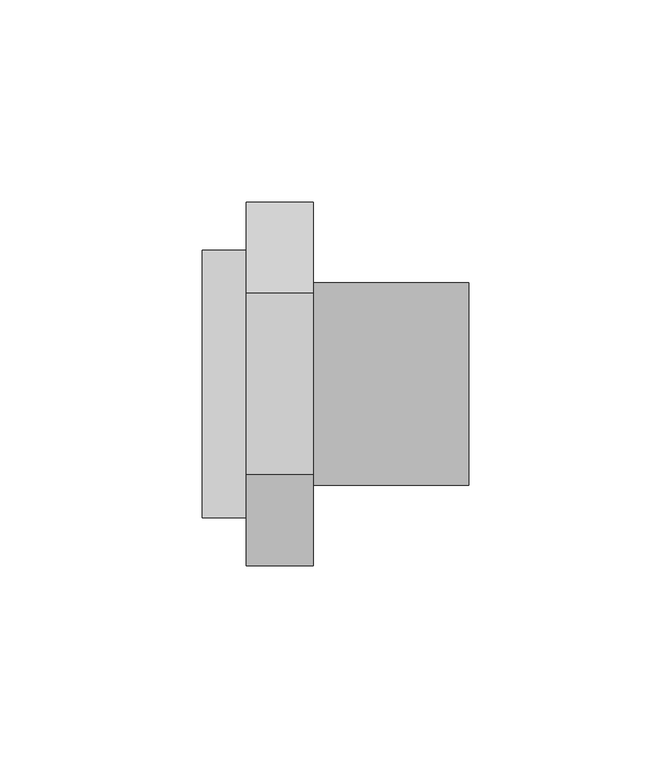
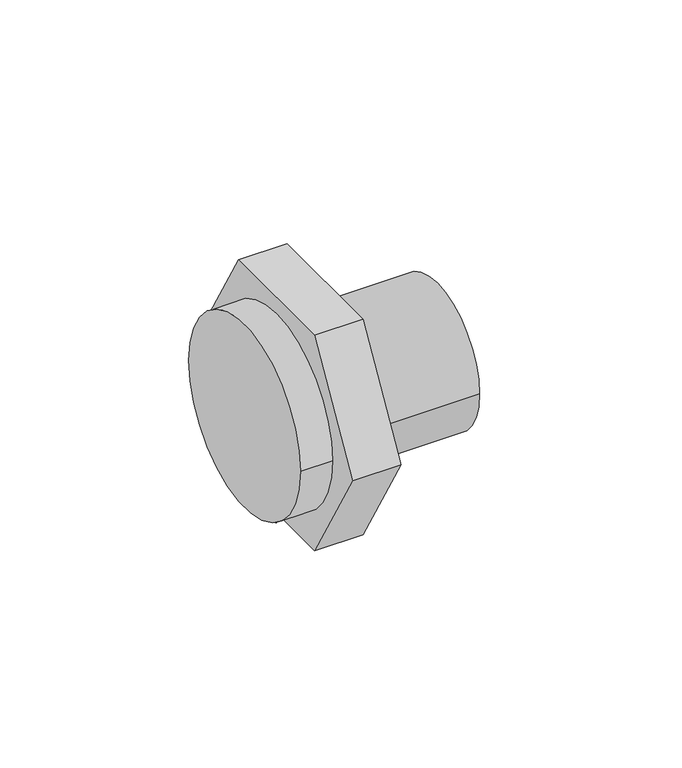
"""IFC4 building model written with IfcOpenShell, lengths in millimetres: pipe fitting geometry, 01101008 : Manguitos multiplos H/M/H."""

import ifcopenshell
import ifcopenshell.guid

model = None  # the IFC model being written
_history = None  # IfcOwnerHistory: only IFC2X3 demands one
_inside = {}  # id of a spatial element -> (the spatial element, [elements in it])
_under = {}  # id of a project, library or spatial element -> (it, [spatial elements below it])
_declared = {}  # id of a project -> (the project, [libraries it declares])
_typed = {}  # id of a type object -> (the type object, [elements of that type])
_made_of = {}  # id of a material, layer set ... -> (it, [elements and type objects made of it])


def new_model(schema):
    """Start an empty IFC model of exactly this schema.

    Asked for "IFC4X3", IfcOpenShell would pick the latest addendum, in which some entities
    have other attributes; the version numbers below select the first issue.
    IFC2X3 requires an IfcOwnerHistory on every rooted entity: one is made here for all.
    """
    global model, _history
    if schema == "IFC4X3":
        model = ifcopenshell.file(schema_version=(4, 3, 0, 0))
    else:
        model = ifcopenshell.file(schema=schema)
    _inside.clear()
    _under.clear()
    _declared.clear()
    _typed.clear()
    _made_of.clear()
    _history = None
    if model.schema == "IFC2X3":
        org = make("IfcOrganization", Name="unknown")
        user = make(
            "IfcPersonAndOrganization",
            ThePerson=make("IfcPerson", FamilyName="unknown"),
            TheOrganization=org,
        )
        app = make(
            "IfcApplication",
            ApplicationDeveloper=org,
            Version="unknown",
            ApplicationFullName="unknown",
            ApplicationIdentifier="unknown",
        )
        _history = make(
            "IfcOwnerHistory",
            OwningUser=user,
            OwningApplication=app,
            ChangeAction="ADDED",
            CreationDate=0,
        )
    return model


def make(cls, **values):
    """One entity of the class cls with the attributes given. An attribute that is None is left unset."""
    return model.create_entity(
        cls, **{name: value for name, value in values.items() if value is not None}
    )


def rooted(cls, **values):
    """An entity with a GlobalId (a new one), such as an element, a storey or a relation."""
    return make(cls, GlobalId=ifcopenshell.guid.new(), OwnerHistory=_history, **values)


def si_unit(unit_type, name, prefix=None):
    """IfcSIUnit, for example si_unit("LENGTHUNIT", "METRE", prefix="MILLI")."""
    return make("IfcSIUnit", UnitType=unit_type, Prefix=prefix, Name=name)


def assignment(units):
    """IfcUnitAssignment: the units of a project."""
    return None if units is None else make("IfcUnitAssignment", Units=units)


def point(xyz):
    """IfcCartesianPoint."""
    return None if xyz is None else make("IfcCartesianPoint", Coordinates=xyz)


def direction(xyz):
    """IfcDirection."""
    return None if xyz is None else make("IfcDirection", DirectionRatios=xyz)


def frame(location, z_axis=None, x_axis=None):
    """IfcAxis2Placement3D, a coordinate frame: its origin and axes. An axis left out is left unset."""
    return make(
        "IfcAxis2Placement3D",
        Location=point(location),
        Axis=direction(z_axis),
        RefDirection=direction(x_axis),
    )


def frame_2d(location, x_axis=None):
    """IfcAxis2Placement2D, a coordinate frame in the plane: its origin and x axis."""
    return make(
        "IfcAxis2Placement2D", Location=point(location), RefDirection=direction(x_axis)
    )


def origin():
    """The frame at (0, 0, 0) with its axes left unset."""
    return frame((0.0, 0.0, 0.0))


def origin_2d():
    """The frame at (0, 0) in the plane with its x axis left unset."""
    return frame_2d((0.0, 0.0))


def place(relative_to, where):
    """IfcLocalPlacement: puts the frame where relative to a parent placement (None: the world)."""
    return make(
        "IfcLocalPlacement", PlacementRelTo=relative_to, RelativePlacement=where
    )


def context(
    kind, dimensions, precision=None, world=None, true_north=None, identifier=None
):
    """IfcGeometricRepresentationContext, for example the 3D "Model" context."""
    return make(
        "IfcGeometricRepresentationContext",
        ContextIdentifier=identifier,
        ContextType=kind,
        CoordinateSpaceDimension=dimensions,
        Precision=precision,
        WorldCoordinateSystem=world,
        TrueNorth=true_north,
    )


def project(units=None, contexts=None):
    """IfcProject with its units and contexts."""
    return rooted(
        "IfcProject",
        Name="project",
        RepresentationContexts=contexts,
        UnitsInContext=assignment(units),
    )


def spatial(cls, under=None, at=None, **own):
    """A site, building, storey or space (cls), placed at a placement, below another one or the project."""
    s = rooted(cls, ObjectPlacement=at, **own)
    if under is not None:
        _under.setdefault(under.id(), (under, []))[1].append(s)
    return s


def polyline(points):
    """IfcPolyline through the points."""
    return make("IfcPolyline", Points=[point(p) for p in points])


def circle_curve(where, radius):
    """IfcCircle in the frame where."""
    return make("IfcCircle", Position=where, Radius=radius)


def trimmed(basis, trim1, trim2, sense, master):
    """IfcTrimmedCurve: the piece of a basis curve between two trims."""
    return make(
        "IfcTrimmedCurve",
        BasisCurve=basis,
        Trim1=trim1,
        Trim2=trim2,
        SenseAgreement=sense,
        MasterRepresentation=master,
    )


def segment(curve, same_sense, transition):
    """IfcCompositeCurveSegment."""
    return make(
        "IfcCompositeCurveSegment",
        Transition=transition,
        SameSense=same_sense,
        ParentCurve=curve,
    )


def composite_curve(segments, self_intersect=None):
    """IfcCompositeCurve: segments joined end to end."""
    return make("IfcCompositeCurve", Segments=segments, SelfIntersect=self_intersect)


def outline(outer, holes=None, kind="AREA"):
    """IfcArbitraryClosedProfileDef: a profile drawn as a closed curve; with holes, ...WithVoids."""
    if holes is None:
        return make("IfcArbitraryClosedProfileDef", ProfileType=kind, OuterCurve=outer)
    return make(
        "IfcArbitraryProfileDefWithVoids",
        ProfileType=kind,
        OuterCurve=outer,
        InnerCurves=holes,
    )


def extrude(swept, where, along, depth):
    """IfcExtrudedAreaSolid: the profile swept, set in the frame where, extruded along a direction by depth."""
    return make(
        "IfcExtrudedAreaSolid",
        SweptArea=swept,
        Position=where,
        ExtrudedDirection=direction(along),
        Depth=depth,
    )


def shape(context_of_items, identifier, shape_type, items):
    """IfcShapeRepresentation: the items that make up one representation, for example the "Body"."""
    return make(
        "IfcShapeRepresentation",
        ContextOfItems=context_of_items,
        RepresentationIdentifier=identifier,
        RepresentationType=shape_type,
        Items=items,
    )


def source(mapping_origin, context_of_items, identifier, shape_type, items):
    """IfcRepresentationMap: a shape defined once, which mapped items show again and again."""
    return make(
        "IfcRepresentationMap",
        MappingOrigin=mapping_origin,
        MappedRepresentation=shape(context_of_items, identifier, shape_type, items),
    )


def transform(
    local_origin,
    x_axis=None,
    y_axis=None,
    z_axis=None,
    scale=None,
    scale2=None,
    scale3=None,
    uniform=True,
):
    """IfcCartesianTransformationOperator3D, or its non-uniform kind. x_axis, y_axis, z_axis: its Axis1, 2, 3."""
    if uniform:
        return make(
            "IfcCartesianTransformationOperator3D",
            Axis1=direction(x_axis),
            Axis2=direction(y_axis),
            LocalOrigin=point(local_origin),
            Scale=scale,
            Axis3=direction(z_axis),
        )
    return make(
        "IfcCartesianTransformationOperator3DnonUniform",
        Axis1=direction(x_axis),
        Axis2=direction(y_axis),
        LocalOrigin=point(local_origin),
        Scale=scale,
        Axis3=direction(z_axis),
        Scale2=scale2,
        Scale3=scale3,
    )


def mapped(mapping_source, mapping_target):
    """IfcMappedItem: shows the shape of a source again, moved by a transform."""
    return make(
        "IfcMappedItem", MappingSource=mapping_source, MappingTarget=mapping_target
    )


def made_of(thing, what):
    """Note that an element or type object is made of a material, layer set ...; save() writes the relation."""
    if what is not None:
        _made_of.setdefault(what.id(), (what, []))[1].append(thing)
    return thing


def element(
    cls,
    number,
    at=None,
    inside=None,
    cuts=None,
    type_object=None,
    material=None,
    context=None,
    identifier="Body",
    shape_type=None,
    held_by="IfcProductDefinitionShape",
    body=None,
    shapes=None,
    **own,
):
    """One element of the class cls, such as IfcWall. Its Tag is "e" and its number.

    at: its placement. inside: the storey or other place that contains it. cuts: it is an
    opening in that element (IfcRelVoidsElement). A single representation is given by context,
    identifier, shape_type and body (its items); several are given by shapes. held_by: the class
    of the entity that holds the representations. save() writes the other relations.
    """
    e = rooted(cls, Tag="e%d" % number, ObjectPlacement=at, **own)
    if body is not None:
        shapes = [shape(context, identifier, shape_type, body)]
    if shapes is not None:
        e.Representation = make(held_by, Representations=shapes)
    if inside is not None:
        _inside.setdefault(inside.id(), (inside, []))[1].append(e)
    if cuts is not None:
        rooted(
            "IfcRelVoidsElement", RelatingBuildingElement=cuts, RelatedOpeningElement=e
        )
    if type_object is not None:
        _typed.setdefault(type_object.id(), (type_object, []))[1].append(e)
    return made_of(e, material)


def aggregate(whole, parts):
    """IfcRelAggregates: a whole, such as a stair, and the parts it consists of."""
    return rooted("IfcRelAggregates", RelatingObject=whole, RelatedObjects=parts)


def save(model, path):
    """Write the relations noted so far, then the file.

    IfcRelAggregates (storeys below a building ...), IfcRelContainedInSpatialStructure (elements
    in a storey), IfcRelDefinesByType, IfcRelAssociatesMaterial and IfcRelDeclares: one each for
    every whole, place, type object, material and project.
    """
    for whole, parts in _under.values():
        aggregate(whole, parts)
    for where, things in _inside.values():
        rooted(
            "IfcRelContainedInSpatialStructure",
            RelatedElements=things,
            RelatingStructure=where,
        )
    for kind, things in _typed.values():
        rooted("IfcRelDefinesByType", RelatedObjects=things, RelatingType=kind)
    for what, things in _made_of.values():
        rooted("IfcRelAssociatesMaterial", RelatedObjects=things, RelatingMaterial=what)
    for by, libraries in _declared.values():
        rooted("IfcRelDeclares", RelatingContext=by, RelatedDefinitions=libraries)
    model.write(path)


def pipe_fitting_06e32a68(model_context):
    return source(origin(), model_context, "Body", "SweptSolid", [
        extrude(outline(composite_curve([segment(trimmed(circle_curve(origin_2d(), 33.075), [point((33.075, 0.0))], [point((-33.075, 0.0))], False, "CARTESIAN"), True, "CONTINUOUS"), segment(trimmed(circle_curve(origin_2d(), 33.075), [point((-33.075, 0.0))], [point((33.075, 0.0))], False, "CARTESIAN"), True, "CONTINUOUS")], self_intersect=False)), frame((0.0, 0.0, 0.0), z_axis=(1.0, 0.0, 0.0), x_axis=(0.0, 1.0, 0.0)), (0.0, 0.0, 1.0), 11.0),
        extrude(outline(polyline([(-22.5166605, 39.0), (22.5166605, 39.0), (45.033321, 0.0), (22.5166605, -39.0), (-22.5166605, -39.0), (-45.033321, 0.0), (-22.5166605, 39.0)])), frame((11.0, 0.0, 0.0), z_axis=(1.0, 0.0, 0.0), x_axis=(0.0, 1.0, 0.0)), (0.0, 0.0, 1.0), 16.5),
        extrude(outline(composite_curve([segment(trimmed(circle_curve(origin_2d(), 25.0), [point((-25.0, 0.0))], [point((25.0, 0.0))], False, "CARTESIAN"), True, "CONTINUOUS"), segment(trimmed(circle_curve(origin_2d(), 25.0), [point((25.0, 0.0))], [point((-25.0, 0.0))], False, "CARTESIAN"), True, "CONTINUOUS")], self_intersect=False)), frame((27.5, 0.0, 0.0), z_axis=(1.0, 0.0, 0.0), x_axis=(0.0, 1.0, 0.0)), (0.0, 0.0, 1.0), 38.5),
    ])


if __name__ == "__main__":
    model = new_model("IFC4")
    model_context = context("Model", 3, world=origin())
    ifc_project = project(units=[si_unit("LENGTHUNIT", "METRE", prefix="MILLI")], contexts=[model_context])
    site = spatial("IfcSite", under=ifc_project)
    building = spatial("IfcBuilding", under=site)
    placement = place(None, origin())
    pipe_fitting_shape = pipe_fitting_06e32a68(model_context)
    element("IfcPipeFitting", 1, ObjectType="01101008 : Manguitos multiplos H/M/H", at=placement, inside=building, context=model_context, shape_type="MappedRepresentation", body=[
        mapped(pipe_fitting_shape, transform((0.0, 0.0, 0.0), x_axis=(1.0, 0.0, 0.0), y_axis=(0.0, 1.0, 0.0), z_axis=(0.0, 0.0, 1.0))),
    ])
    save(model, "model.ifc")
